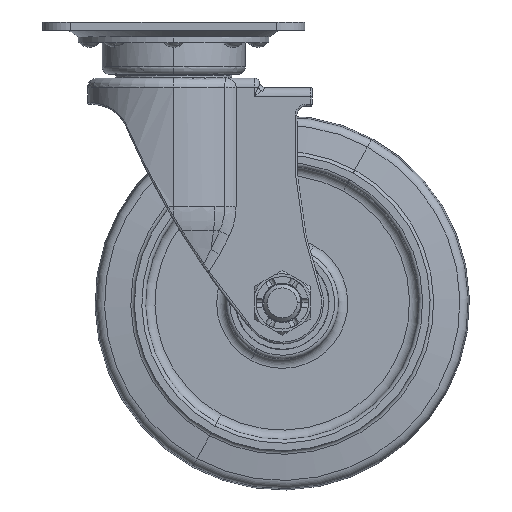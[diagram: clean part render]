
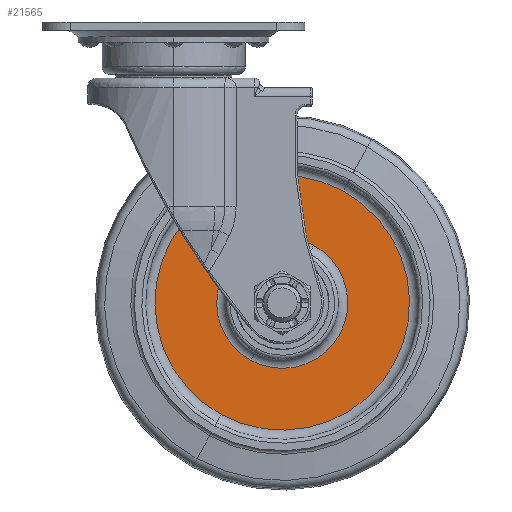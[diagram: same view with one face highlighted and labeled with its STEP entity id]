
A CAD part, front view. The second image highlights one B-rep face of the part: STEP entity #21565.
In plain terms, the highlighted planar face has unit normal (0, -1, 0).
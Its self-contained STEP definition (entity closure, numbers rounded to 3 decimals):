
#21473=AXIS2_PLACEMENT_3D('Circle Axis2P3D',#21471,#21472,$) ;
#21485=AXIS2_PLACEMENT_3D('Circle Axis2P3D',#21483,#21484,$) ;
#21541=AXIS2_PLACEMENT_3D('Plane Axis2P3D',#21538,#21539,#21540) ;
#21549=AXIS2_PLACEMENT_3D('Circle Axis2P3D',#21547,#21548,$) ;
#21558=AXIS2_PLACEMENT_3D('Circle Axis2P3D',#21556,#21557,$) ;
#21461=CARTESIAN_POINT('Vertex',(90.601,-5.,-90.324)) ;
#21468=CARTESIAN_POINT('Vertex',(25.399,-5.,-209.676)) ;
#21471=CARTESIAN_POINT('Axis2P3D Location',(58.,-5.,-150.)) ;
#21483=CARTESIAN_POINT('Axis2P3D Location',(58.,-5.,-150.)) ;
#21538=CARTESIAN_POINT('Axis2P3D Location',(58.,-5.,-82.)) ;
#21547=CARTESIAN_POINT('Axis2P3D Location',(58.,-5.,-150.)) ;
#21551=CARTESIAN_POINT('Vertex',(41.22,-5.,-180.715)) ;
#21553=CARTESIAN_POINT('Vertex',(74.78,-5.,-119.285)) ;
#21556=CARTESIAN_POINT('Axis2P3D Location',(58.,-5.,-150.)) ;
#21472=DIRECTION('Axis2P3D Direction',(-0.,1.,0.)) ;
#21484=DIRECTION('Axis2P3D Direction',(-0.,1.,0.)) ;
#21539=DIRECTION('Axis2P3D Direction',(-0.,1.,0.)) ;
#21540=DIRECTION('Axis2P3D XDirection',(1.,0.,0.)) ;
#21548=DIRECTION('Axis2P3D Direction',(-0.,1.,0.)) ;
#21557=DIRECTION('Axis2P3D Direction',(-0.,1.,0.)) ;
#21544=ORIENTED_EDGE('',*,*,#21487,.F.) ;
#21545=ORIENTED_EDGE('',*,*,#21475,.F.) ;
#21562=ORIENTED_EDGE('',*,*,#21555,.T.) ;
#21563=ORIENTED_EDGE('',*,*,#21560,.T.) ;
#21564=FACE_BOUND('',#21561,.T.) ;
#21565=ADVANCED_FACE('\X2\8ECA9AA867B6\X0\ \X2\7684526F672C\X0\',(#21546,#21564),#21542,.F.) ;
#21474=CIRCLE('generated circle',#21473,68.) ;
#21486=CIRCLE('generated circle',#21485,68.) ;
#21550=CIRCLE('generated circle',#21549,35.) ;
#21559=CIRCLE('generated circle',#21558,35.) ;
#21475=EDGE_CURVE('',#21469,#21462,#21474,.T.) ;
#21487=EDGE_CURVE('',#21462,#21469,#21486,.T.) ;
#21555=EDGE_CURVE('',#21552,#21554,#21550,.T.) ;
#21560=EDGE_CURVE('',#21554,#21552,#21559,.T.) ;
#21543=EDGE_LOOP('',(#21544,#21545)) ;
#21561=EDGE_LOOP('',(#21562,#21563)) ;
#21546=FACE_OUTER_BOUND('',#21543,.T.) ;
#21542=PLANE('',#21541) ;
#21462=VERTEX_POINT('',#21461) ;
#21469=VERTEX_POINT('',#21468) ;
#21552=VERTEX_POINT('',#21551) ;
#21554=VERTEX_POINT('',#21553) ;
